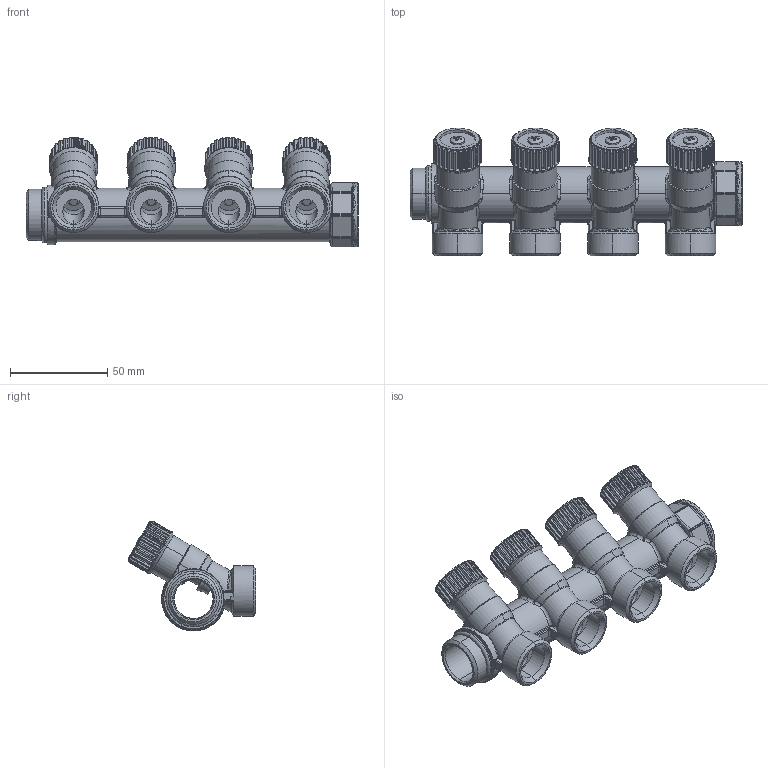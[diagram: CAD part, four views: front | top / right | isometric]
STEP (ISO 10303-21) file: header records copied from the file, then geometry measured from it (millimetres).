
FILE_DESCRIPTION (( 'STEP AP214' ), '1' );
FILE_NAME ('ADM114_Modul_rozszerzaj¹cy_dorozdzielacza_wody_pitnej_2211400_0_3D_AFRISO.STEP', '2025-01-23T10:22:33', ( '' ), ( '' ), 'SwSTEP 2.0', 'SolidWorks 2024', '' );
FILE_SCHEMA (( 'AUTOMOTIVE_DESIGN' ));
Length unit declared in the file: millimetre
Products named in the file (14): 3424693; 68512804FRS; Corpo Vitone Coll; ADM114_Modul_rozszerzający_dorozdzielacza_wody_pitnej_2211400_0_3D_AFRISO; Otturatore Vitone Coll; Asta vitone collettori; Seeger a filo Vitone; 4761624; Guarnizione piatta Otturatore; 9446820; 9346615; 68512804FRLN; OR Corpo Vitone_montato; OR Asta
Assembly tree (23 placements, depth 4):
  ADM114_Modul_rozszerzający_dorozdzielacza_wody_pitnej_2211400_0_3D_AFRISO
    68512804FRS
      9446820  x4
        Corpo Vitone Coll
        Otturatore Vitone Coll
        Asta vitone collettori
        Seeger a filo Vitone
        Guarnizione piatta Otturatore
        OR Asta
        OR Corpo Vitone_montato
      68512804FRLN
      9346615  x4
      4761624  x4
      3424693
Bounding box: 171 x 65.71 x 56.63 mm (x, y, z)
Volume: 98755 mm3; surface area: 86263.3 mm2
Topology: 42 solids, 42 shells, 3394 faces, 8544 edges, 5329 vertices
Faces by surface type: cylinder 1195, plane 1034, bspline 470, torus 405, cone 270, sphere 20
Entity records: 55125 total; most frequent: CARTESIAN_POINT 25475, ORIENTED_EDGE 6594, DIRECTION 5561, EDGE_CURVE 3297, AXIS2_PLACEMENT_3D 2318, VERTEX_POINT 2015, EDGE_LOOP 1414, ADVANCED_FACE 1344
